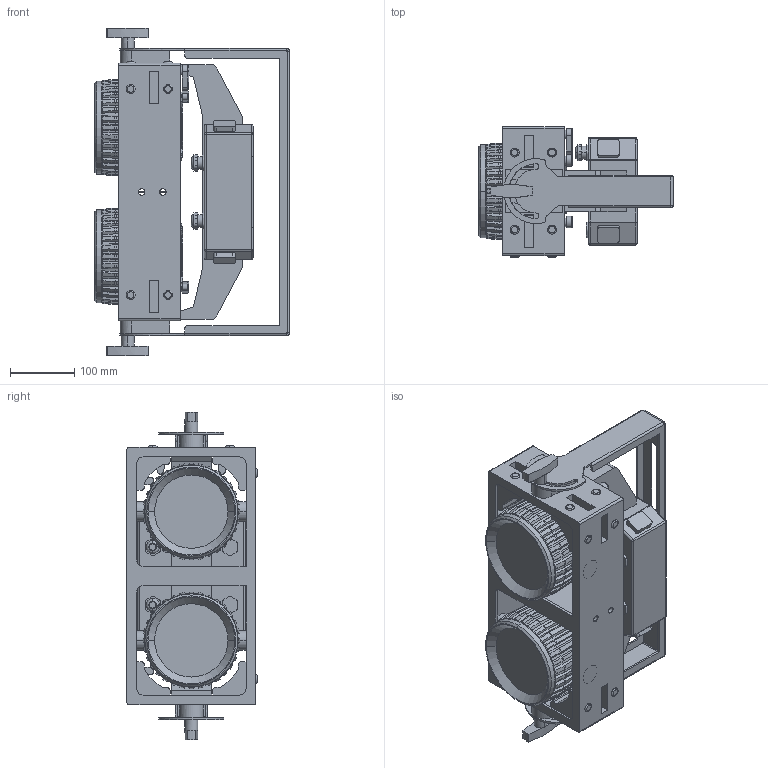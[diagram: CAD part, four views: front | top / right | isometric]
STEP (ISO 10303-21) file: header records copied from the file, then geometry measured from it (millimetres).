
FILE_DESCRIPTION((''),'2;1');
FILE_NAME('GLP-22009_ASM','2025-04-28T10:53:55',('LeovomKolke'),(''),'CREO PARAMETRIC BY PTC INC, 2024133','CREO PARAMETRIC BY PTC INC, 2024133','');
FILE_SCHEMA(('AUTOMOTIVE_DESIGN { 1 0 10303 214 1 1 1 1 }'));
Products named in the file (3): GLP-17201; GLP-17210; GLP-22009_ASM
Assembly tree (2 placements, depth 2):
  GLP-22009_ASM
    GLP-17201
    GLP-17210
Bounding box: 302.52 x 202 x 509 mm (x, y, z)
Volume: 8735387.6 mm3; surface area: 996103.6 mm2
Topology: 6 solids, 8 shells, 2771 faces, 7418 edges, 4768 vertices
Faces by surface type: plane 1889, cylinder 546, torus 160, cone 84, bspline 68, sphere 16, revolution 8
Entity records: 93639 total; most frequent: CARTESIAN_POINT 20717, ORIENTED_EDGE 14796, DIRECTION 13801, EDGE_CURVE 7398, VECTOR 5080, LINE 5080, VERTEX_POINT 4748, AXIS2_PLACEMENT_3D 4352
